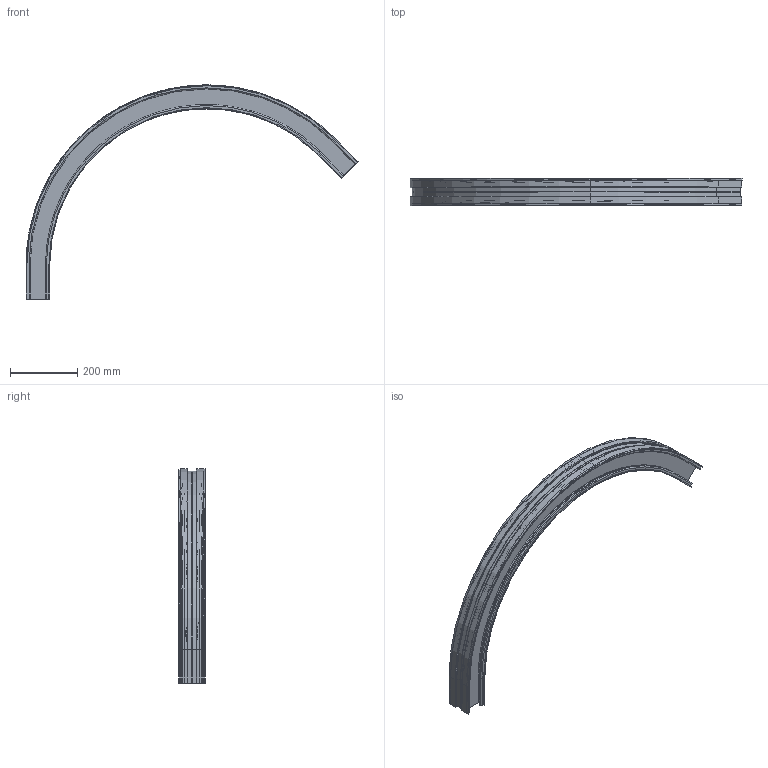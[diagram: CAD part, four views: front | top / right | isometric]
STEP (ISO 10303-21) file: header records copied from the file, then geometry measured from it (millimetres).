
FILE_DESCRIPTION (( 'STEP AP203' ), '1' );
FILE_NAME ('R1C500-135.STEP', '2008-11-24T14:40:16', ( 'faber' ), ( '' ), 'SwSTEP 2.0', 'SolidWorks 2008', '' );
FILE_SCHEMA (( 'CONFIG_CONTROL_DESIGN' ));
Length unit declared in the file: millimetre
Products named in the file (1): R1C500-135
Bounding box: 984.01 x 79.8 x 635 mm (x, y, z)
Surface area: 882171.3 mm2 (no closed solid volume)
Topology: 0 solids, 5 shells, 247 faces, 779 edges, 524 vertices
Faces by surface type: plane 102, cylinder 94, bspline 40, cone 11
Entity records: 12396 total; most frequent: CARTESIAN_POINT 5599, DIRECTION 1405, ORIENTED_EDGE 1334, EDGE_CURVE 779, VERTEX_POINT 524, LINE 489, VECTOR 489, AXIS2_PLACEMENT_3D 458
